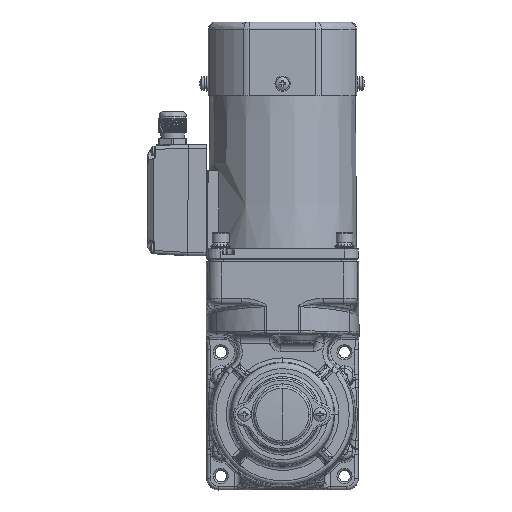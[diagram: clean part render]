
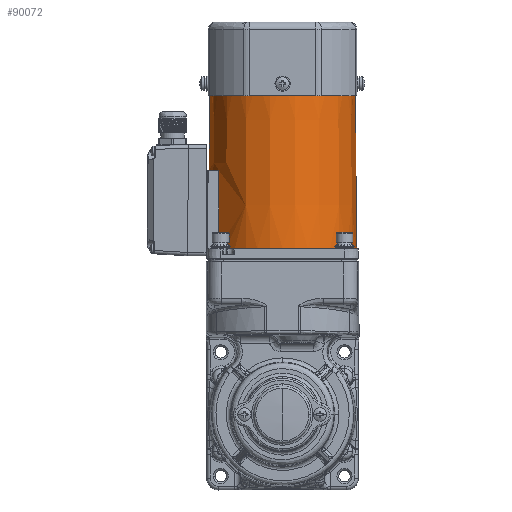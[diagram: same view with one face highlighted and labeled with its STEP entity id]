
A CAD part, left-side view. The second image highlights one B-rep face of the part: STEP entity #90072.
In plain terms, the highlighted conical face has half-angle 0.5 degrees and reference radius 44 mm.
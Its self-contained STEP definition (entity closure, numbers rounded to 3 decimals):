
#3520 = EDGE_CURVE ( 'NONE', #11926, #55834, #28463, .T. ) ;
#6963 = EDGE_CURVE ( 'NONE', #79175, #75906, #83729, .T. ) ;
#7614 = CARTESIAN_POINT ( 'NONE',  ( 47.003, 15.104, 178.956 ) ) ;
#9427 = ORIENTED_EDGE ( 'NONE', *, *, #6963, .F. ) ;
#9695 = CIRCLE ( 'NONE', #21280, 43.594 ) ;
#10485 = CARTESIAN_POINT ( 'NONE',  ( 47.003, 15.379, 163.302 ) ) ;
#11068 = CARTESIAN_POINT ( 'NONE',  ( 46.925, 15.244, 178.703 ) ) ;
#11926 = VERTEX_POINT ( 'NONE', #13545 ) ;
#13061 = DIRECTION ( 'NONE',  ( -1., 0., 0. ) ) ;
#13545 = CARTESIAN_POINT ( 'NONE',  ( 52.163, -6.352, 234.5 ) ) ;
#13832 = ORIENTED_EDGE ( 'NONE', *, *, #27828, .T. ) ;
#14790 = CARTESIAN_POINT ( 'NONE',  ( 9.054, -6.352, 132.5 ) ) ;
#16108 = VECTOR ( 'NONE', #40145, 1000. ) ;
#17229 = CARTESIAN_POINT ( 'NONE',  ( -34.946, -6.352, 132.5 ) ) ;
#17293 = CARTESIAN_POINT ( 'NONE',  ( 47.064, 14.994, 179. ) ) ;
#17887 = CARTESIAN_POINT ( 'NONE',  ( 46.948, 15.202, 178.855 ) ) ;
#19093 = CARTESIAN_POINT ( 'NONE',  ( 46.925, 15.244, 178.741 ) ) ;
#19562 = CARTESIAN_POINT ( 'NONE',  ( 47.159, 15.648, 132.5 ) ) ;
#19700 = VERTEX_POINT ( 'NONE', #27699 ) ;
#20797 = VERTEX_POINT ( 'NONE', #39789 ) ;
#21280 = AXIS2_PLACEMENT_3D ( 'NONE', #59632, #29396, #13061 ) ;
#25080 = B_SPLINE_CURVE_WITH_KNOTS ( 'NONE', 3,
 ( #11068, #10485, #47963, #19562 ),
 .UNSPECIFIED., .F., .F.,
 ( 4, 4 ),
 ( 0., 0.046 ),
 .UNSPECIFIED. ) ;
#27268 = CARTESIAN_POINT ( 'NONE',  ( -34.056, -6.352, 234.5 ) ) ;
#27544 = CARTESIAN_POINT ( 'NONE',  ( 46.977, 15.149, 178.919 ) ) ;
#27699 = CARTESIAN_POINT ( 'NONE',  ( 46.925, 15.244, 178.703 ) ) ;
#27828 = EDGE_CURVE ( 'NONE', #19700, #93535, #25080, .T. ) ;
#28463 = LINE ( 'NONE', #55107, #87669 ) ;
#29396 = DIRECTION ( 'NONE',  ( 0., 0., 1. ) ) ;
#31366 = ORIENTED_EDGE ( 'NONE', *, *, #60838, .T. ) ;
#34685 = EDGE_CURVE ( 'NONE', #79175, #11926, #43647, .T. ) ;
#35442 = CARTESIAN_POINT ( 'NONE',  ( 47.092, 14.944, 179. ) ) ;
#36634 = CARTESIAN_POINT ( 'NONE',  ( 46.925, 15.244, 178.703 ) ) ;
#39789 = CARTESIAN_POINT ( 'NONE',  ( 47.092, 14.944, 179. ) ) ;
#40145 = DIRECTION ( 'NONE',  ( -0.009, 0., -1. ) ) ;
#43407 = CARTESIAN_POINT ( 'NONE',  ( 47.159, 15.648, 132.5 ) ) ;
#43647 = CIRCLE ( 'NONE', #113190, 43.11 ) ;
#44507 = CARTESIAN_POINT ( 'NONE',  ( 47.041, 15.037, 178.988 ) ) ;
#44773 = DIRECTION ( 'NONE',  ( 0., 0., -1. ) ) ;
#45373 = DIRECTION ( 'NONE',  ( -1., 0., 0. ) ) ;
#47963 = CARTESIAN_POINT ( 'NONE',  ( 47.081, 15.513, 147.901 ) ) ;
#48728 = CONICAL_SURFACE ( 'NONE', #93207, 44., 0.009 ) ;
#49265 = CARTESIAN_POINT ( 'NONE',  ( 9.054, -6.352, 132.5 ) ) ;
#50506 = DIRECTION ( 'NONE',  ( -1., 0., 0. ) ) ;
#52360 = CARTESIAN_POINT ( 'NONE',  ( 52.648, -6.352, 179. ) ) ;
#53300 = B_SPLINE_CURVE_WITH_KNOTS ( 'NONE', 3,
 ( #36634, #19093, #62659, #65034, #17887, #91682, #55978, #99589, #73516, #90485, #27544, #64446, #7614, #44507, #17293, #35442 ),
 .UNSPECIFIED., .F., .F.,
 ( 4, 2, 2, 1, 1, 2, 2, 2, 4 ),
 ( 0., 0.25, 0.375, 0.437, 0.469, 0.484, 0.5, 0.75, 1. ),
 .UNSPECIFIED. ) ;
#55107 = CARTESIAN_POINT ( 'NONE',  ( 53.054, -6.352, 132.5 ) ) ;
#55834 = VERTEX_POINT ( 'NONE', #52360 ) ;
#55978 = CARTESIAN_POINT ( 'NONE',  ( 46.963, 15.174, 178.893 ) ) ;
#56245 = CARTESIAN_POINT ( 'NONE',  ( 9.054, -6.352, 234.5 ) ) ;
#59632 = CARTESIAN_POINT ( 'NONE',  ( 9.054, -6.352, 179. ) ) ;
#60217 = ORIENTED_EDGE ( 'NONE', *, *, #3520, .T. ) ;
#60838 = EDGE_CURVE ( 'NONE', #55834, #20797, #9695, .T. ) ;
#62525 = AXIS2_PLACEMENT_3D ( 'NONE', #14790, #114086, #50506 ) ;
#62659 = CARTESIAN_POINT ( 'NONE',  ( 46.929, 15.236, 178.78 ) ) ;
#64446 = CARTESIAN_POINT ( 'NONE',  ( 46.988, 15.13, 178.937 ) ) ;
#65034 = CARTESIAN_POINT ( 'NONE',  ( 46.942, 15.212, 178.837 ) ) ;
#65949 = EDGE_CURVE ( 'NONE', #93535, #75906, #79886, .T. ) ;
#65955 = DIRECTION ( 'NONE',  ( 0.009, 0., -1. ) ) ;
#72571 = EDGE_CURVE ( 'NONE', #19700, #20797, #53300, .T. ) ;
#73516 = CARTESIAN_POINT ( 'NONE',  ( 46.973, 15.156, 178.913 ) ) ;
#75906 = VERTEX_POINT ( 'NONE', #79357 ) ;
#76358 = ORIENTED_EDGE ( 'NONE', *, *, #72571, .F. ) ;
#77087 = DIRECTION ( 'NONE',  ( -1., 0., 0. ) ) ;
#78123 = EDGE_LOOP ( 'NONE', ( #112328, #60217, #31366, #76358, #13832, #88004, #9427 ) ) ;
#79175 = VERTEX_POINT ( 'NONE', #27268 ) ;
#79357 = CARTESIAN_POINT ( 'NONE',  ( -34.946, -6.352, 132.5 ) ) ;
#79886 = CIRCLE ( 'NONE', #62525, 44. ) ;
#83729 = LINE ( 'NONE', #17229, #16108 ) ;
#87669 = VECTOR ( 'NONE', #65955, 1000. ) ;
#88004 = ORIENTED_EDGE ( 'NONE', *, *, #65949, .T. ) ;
#90072 = ADVANCED_FACE ( 'NONE', ( #97044 ), #48728, .T. ) ;
#90485 = CARTESIAN_POINT ( 'NONE',  ( 46.975, 15.152, 178.916 ) ) ;
#91682 = CARTESIAN_POINT ( 'NONE',  ( 46.958, 15.184, 178.881 ) ) ;
#93207 = AXIS2_PLACEMENT_3D ( 'NONE', #49265, #115807, #77087 ) ;
#93535 = VERTEX_POINT ( 'NONE', #43407 ) ;
#97044 = FACE_OUTER_BOUND ( 'NONE', #78123, .T. ) ;
#99589 = CARTESIAN_POINT ( 'NONE',  ( 46.97, 15.162, 178.907 ) ) ;
#112328 = ORIENTED_EDGE ( 'NONE', *, *, #34685, .T. ) ;
#113190 = AXIS2_PLACEMENT_3D ( 'NONE', #56245, #44773, #45373 ) ;
#114086 = DIRECTION ( 'NONE',  ( 0., 0., 1. ) ) ;
#115807 = DIRECTION ( 'NONE',  ( 0., 0., -1. ) ) ;
